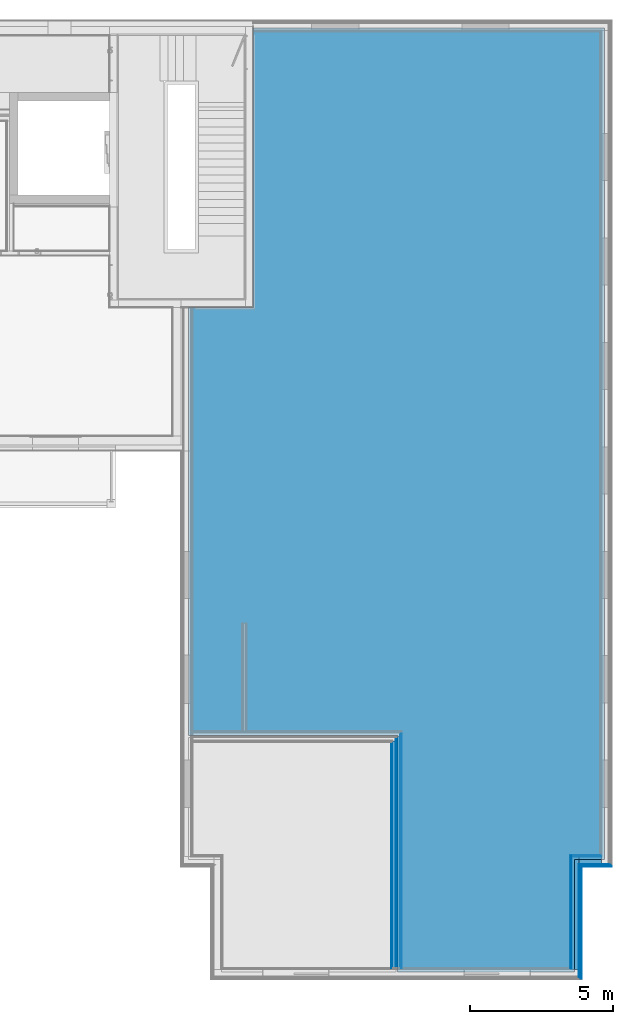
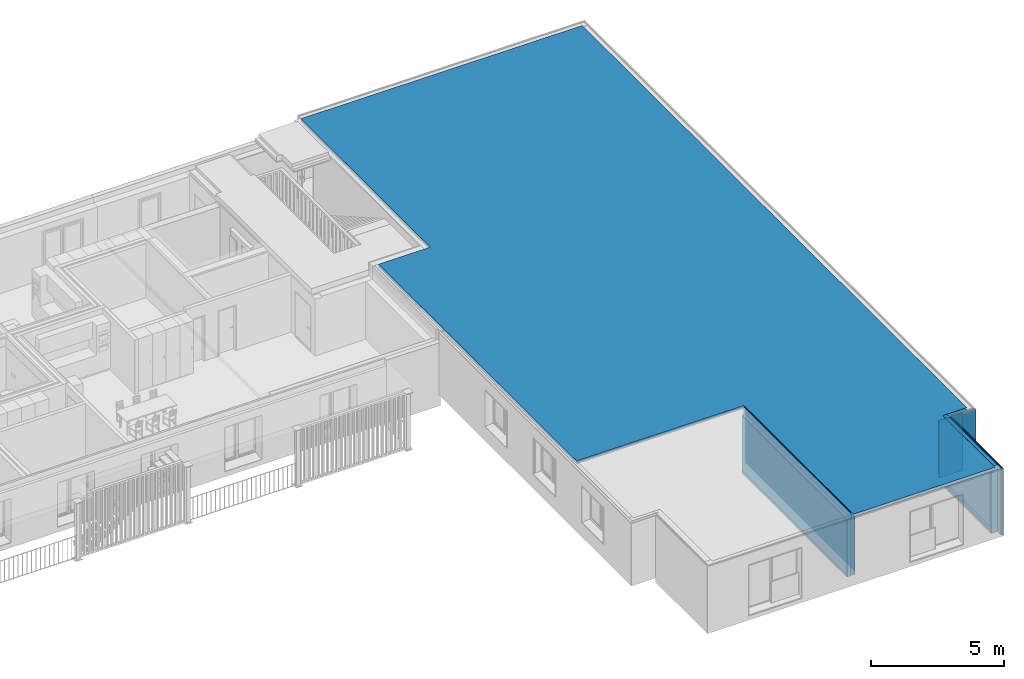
# One storey, part 17 of 34: 28 building element parts, 7 elements without a shape of their own.
"""IFC4 building model written with IfcOpenShell, lengths in millimetres."""

from ifc_helpers import new_model, entity, si_unit, converted_unit, derived_unit, direction, frame, origin_with_axes, place, context, subcontext, project, spatial, polygons, material, type_object, element, aggregate, save


model = new_model("IFC4")

# Units and contexts
model_context = context("Model", 3, precision=0.01, world=origin_with_axes(), true_north=direction((0.0, 1.0)))
body_context = subcontext(model_context, "Body", "Model", "MODEL_VIEW")
ifc_project = project(units=[si_unit("LENGTHUNIT", "METRE", prefix="MILLI"), si_unit("AREAUNIT", "SQUARE_METRE"), si_unit("VOLUMEUNIT", "CUBIC_METRE"), converted_unit("PLANEANGLEUNIT", "DEGREE", entity("IfcPlaneAngleMeasure", 0.0174532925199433), si_unit("PLANEANGLEUNIT", "RADIAN"), dimensions=[0, 0, 0, 0, 0, 0, 0]), converted_unit("TIMEUNIT", "Year", entity("IfcTimeMeasure", 31557600.0), si_unit("TIMEUNIT", "SECOND"), dimensions=[0, 0, 1, 0, 0, 0, 0]), si_unit("MASSUNIT", "GRAM", prefix="KILO"), si_unit("THERMODYNAMICTEMPERATUREUNIT", "DEGREE_CELSIUS"), si_unit("LUMINOUSINTENSITYUNIT", "LUMEN"), si_unit("ENERGYUNIT", "JOULE", prefix="MEGA"), derived_unit("THERMALCONDUCTANCEUNIT", [(si_unit("POWERUNIT", "WATT"), 1), (si_unit("LENGTHUNIT", "METRE"), -1), (si_unit("THERMODYNAMICTEMPERATUREUNIT", "KELVIN"), -1)]), derived_unit("SPECIFICHEATCAPACITYUNIT", [(si_unit("ENERGYUNIT", "JOULE"), 1), (si_unit("MASSUNIT", "GRAM", prefix="KILO"), -1), (si_unit("THERMODYNAMICTEMPERATUREUNIT", "KELVIN"), -1)]), derived_unit("MASSDENSITYUNIT", [(si_unit("MASSUNIT", "GRAM", prefix="KILO"), 1), (si_unit("VOLUMEUNIT", "CUBIC_METRE"), -1)])], contexts=[model_context])

# Site, building, storey
site_placement = place(None, origin_with_axes())
site = spatial("IfcSite", under=ifc_project, at=site_placement, Name="Gelände", CompositionType="ELEMENT")
building_placement = place(site_placement, origin_with_axes())
building = spatial("IfcBuilding", under=site, at=building_placement, Name="Gebäude", CompositionType="ELEMENT")
storey_placement = place(building_placement, frame((0.0, 0.0, 2900.0), z_axis=(0.0, 0.0, 1.0), x_axis=(1.0, 0.0, 0.0)))
storey = spatial("IfcBuildingStorey", under=building, at=storey_placement, Name="1.OG", CompositionType="ELEMENT", Elevation=2900.0)

# Wall, building element parts
wall_type_1 = type_object("IfcWallType", Name="Trennwand Typ 01 186", PredefinedType="NOTDEFINED")
wall_1_placement = place(storey_placement, frame((25242.99744456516, 4897.597281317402, 500.0), z_axis=(0.0, 0.0, 1.0), x_axis=(0.0, 1.0, 0.0)))
wall_1 = element("IfcWall", 1, at=wall_1_placement, inside=storey, type_object=wall_type_1, Name="Wand-014", PredefinedType="NOTDEFINED")
ifc_material_1 = material(Name="Kalkzementputz Aussen")
building_element_part_1_placement = place(wall_1_placement, origin_with_axes())
building_element_part_1 = element("IfcBuildingElementPart", 2, at=building_element_part_1_placement, material=ifc_material_1, Name="Kalkzementputz Aussen", PredefinedType="NOTDEFINED", context=body_context, shape_type="Tessellation", body=[
    polygons([(7891.000000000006, 0.0, 2643.999948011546), (7891.000000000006, -10.00000000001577, 2643.999948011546), (7891.000000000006, -10.00000000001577, 149.9999999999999), (7891.000000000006, 0.0, 149.9999999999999), (0.0, -10.00000000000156, 2643.999948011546), (0.0, 0.0, 2643.999948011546), (0.0, -10.00000000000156, 149.9999999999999), (0.0, 0.0, 149.9999999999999)], [[[1, 2, 3, 4]], [[5, 2, 1, 6]], [[2, 5, 7, 3]], [[4, 3, 7, 8]], [[6, 1, 4, 8]], [[5, 6, 8, 7]]], closed=True),
])
ifc_material_2 = material(Name="Gipskartonplatte GKP")
building_element_part_2_placement = place(wall_1_placement, origin_with_axes())
building_element_part_2 = element("IfcBuildingElementPart", 3, at=building_element_part_2_placement, material=ifc_material_2, Name="Gipskartonplatte GKP", PredefinedType="NOTDEFINED", context=body_context, shape_type="Tessellation", body=[
    polygons([(7901.000000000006, -10.00000000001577, 2643.999948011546), (7901.000000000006, -28.0000000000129, 2643.999948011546), (7901.000000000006, -28.0000000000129, 0.0), (7901.000000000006, -10.00000000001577, 0.0), (0.0, -27.99999999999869, 2643.999948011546), (0.0, -10.00000000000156, 2643.999948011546), (0.0, -27.99999999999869, 0.0), (0.0, -10.00000000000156, 0.0)], [[[1, 2, 3, 4]], [[5, 2, 1, 6]], [[2, 5, 7, 3]], [[4, 3, 7, 8]], [[6, 1, 4, 8]], [[5, 6, 8, 7]]], closed=True),
])
ifc_material_3 = material(Name="Gipsfaserplatte GFP")
building_element_part_3_placement = place(wall_1_placement, origin_with_axes())
building_element_part_3 = element("IfcBuildingElementPart", 4, at=building_element_part_3_placement, material=ifc_material_3, Name="Gipsfaserplatte GFP", PredefinedType="NOTDEFINED", context=body_context, shape_type="Tessellation", body=[
    polygons([(7919.000000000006, -28.0000000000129, 2643.999948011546), (7919.000000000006, -46.00000000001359, 2643.999948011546), (7919.000000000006, -46.00000000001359, 0.0), (7919.000000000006, -28.0000000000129, 0.0), (0.0, -45.99999999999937, 2643.999948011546), (0.0, -27.99999999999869, 2643.999948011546), (0.0, -45.99999999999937, 0.0), (0.0, -27.99999999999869, 0.0)], [[[1, 2, 3, 4]], [[5, 2, 1, 6]], [[2, 5, 7, 3]], [[4, 3, 7, 8]], [[6, 1, 4, 8]], [[5, 6, 8, 7]]], closed=True),
])
ifc_material_4 = material(Name="Ständer Konstruktion gedämmt")
building_element_part_4_placement = place(wall_1_placement, origin_with_axes())
building_element_part_4 = element("IfcBuildingElementPart", 5, at=building_element_part_4_placement, material=ifc_material_4, Name="Ständer Konstruktion gedämmt", PredefinedType="NOTDEFINED", context=body_context, shape_type="Tessellation", body=[
    polygons([(7937.000000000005, -46.00000000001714, 2643.999948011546), (7937.000000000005, -166.0000000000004, 2643.999948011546), (7937.000000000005, -166.0000000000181, 0.0), (7937.000000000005, -46.00000000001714, 0.0), (0.0, -165.9999999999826, 2643.999948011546), (0.0, -45.99999999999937, 2643.999948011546), (0.0, -166.0000000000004, 0.0), (0.0, -45.99999999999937, 0.0)], [[[1, 2, 3, 4]], [[5, 2, 1, 6]], [[2, 5, 7, 3]], [[4, 3, 7, 8]], [[6, 1, 4, 8]], [[5, 6, 8, 7]]], closed=True),
])
ifc_material_5 = material(Name="Dämmung Innen")
building_element_part_5_placement = place(wall_1_placement, origin_with_axes())
building_element_part_5 = element("IfcBuildingElementPart", 6, at=building_element_part_5_placement, material=ifc_material_5, Name="Dämmung Innen", PredefinedType="NOTDEFINED", context=body_context, shape_type="Tessellation", body=[
    polygons([(0.0, -185.9999999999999, 149.9999999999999), (8057.000000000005, -186.0000000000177, 149.9999999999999), (8057.000000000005, -186.0000000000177, 2899.999999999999), (0.0, -185.9999999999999, 2899.999999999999), (8057.000000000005, -166.0000000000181, 149.9999999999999), (0.0, -166.0000000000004, 149.9999999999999), (8057.000000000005, -166.0000000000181, 2899.999999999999), (0.0, -166.0000000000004, 2899.999999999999)], [[[1, 2, 3, 4]], [[5, 2, 1, 6]], [[2, 5, 7, 3]], [[3, 7, 8, 4]], [[6, 1, 4, 8]], [[5, 6, 8, 7]]], closed=True),
])
aggregate(wall_1, [building_element_part_1, building_element_part_2, building_element_part_3, building_element_part_4, building_element_part_5])

# Curtain wall, building element parts
curtain_wall_type = type_object("IfcCurtainWallType", Name="Fassade Typ 02 - Vertikale Schalung 71", PredefinedType="NOTDEFINED")
curtain_wall_1_placement = place(storey_placement, frame((32928.99744477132, 8447.597281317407, 500.0000000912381), z_axis=(0.0, 0.0, 1.0), x_axis=(-1.0, 0.0, 0.0)))
curtain_wall_1 = element("IfcCurtainWall", 7, at=curtain_wall_1_placement, inside=storey, type_object=curtain_wall_type, Name="Wand-014", PredefinedType="NOTDEFINED")
ifc_material_6 = material(Name="Falzschalung vertikal")
building_element_part_6_placement = place(curtain_wall_1_placement, origin_with_axes())
building_element_part_6 = element("IfcBuildingElementPart", 8, at=building_element_part_6_placement, material=ifc_material_6, Name="Falzschalung vertikal", PredefinedType="NOTDEFINED", context=body_context, shape_type="Tessellation", body=[
    polygons([(1067.000025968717, 0.0, 2899.99999990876), (0.0, 0.0, 2899.99999990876), (0.0, -20.99999999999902, 2899.99999990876), (1067.000025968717, -20.99999999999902, 2899.99999990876), (1067.000025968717, 0.0, 0.0), (0.0, 0.0, 0.0), (0.0, -21.0000000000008, 0.0), (1067.000025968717, -21.0000000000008, 0.0)], [[[1, 2, 3, 4]], [[5, 6, 2, 1]], [[3, 2, 6, 7]], [[4, 3, 7, 8]], [[4, 8, 5, 1]], [[8, 7, 6, 5]]], closed=True),
])
ifc_material_7 = material(Name="Lattenrost horizontal")
building_element_part_7_placement = place(curtain_wall_1_placement, origin_with_axes())
building_element_part_7 = element("IfcBuildingElementPart", 9, at=building_element_part_7_placement, material=ifc_material_7, Name="Lattenrost horizontal", PredefinedType="NOTDEFINED", context=body_context, shape_type="Tessellation", body=[
    polygons([(1092.000025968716, -20.99999999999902, 2899.99999990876), (21.0000000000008, -20.99999999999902, 2899.99999990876), (21.0000000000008, -45.99999999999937, 2899.99999990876), (1092.000025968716, -45.99999999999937, 2899.99999990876), (1092.000025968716, -21.0000000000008, 0.0), (21.0000000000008, -21.0000000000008, 0.0), (21.0000000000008, -45.99999999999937, 0.0), (1092.000025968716, -45.99999999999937, 0.0)], [[[1, 2, 3, 4]], [[5, 6, 2, 1]], [[3, 2, 6, 7]], [[4, 3, 7, 8]], [[4, 8, 5, 1]], [[8, 7, 6, 5]]], closed=True),
])
ifc_material_8 = material(Name="Lattenrost vertikal")
building_element_part_8_placement = place(curtain_wall_1_placement, origin_with_axes())
building_element_part_8 = element("IfcBuildingElementPart", 10, at=building_element_part_8_placement, material=ifc_material_8, Name="Lattenrost vertikal", PredefinedType="NOTDEFINED", context=body_context, shape_type="Tessellation", body=[
    polygons([(1117.000025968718, -45.99999999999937, 2899.99999990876), (45.99999999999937, -45.99999999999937, 2899.99999990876), (45.99999999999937, -70.99999999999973, 2899.99999990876), (1117.000025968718, -70.99999999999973, 2899.99999990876), (1117.000025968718, -45.99999999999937, 0.0), (45.99999999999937, -45.99999999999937, 0.0), (45.99999999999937, -70.99999999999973, 0.0), (1117.000025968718, -70.99999999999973, 0.0)], [[[1, 2, 3, 4]], [[5, 6, 2, 1]], [[3, 2, 6, 7]], [[4, 3, 7, 8]], [[4, 8, 5, 1]], [[8, 7, 6, 5]]], closed=True),
])
aggregate(curtain_wall_1, [building_element_part_6, building_element_part_7, building_element_part_8])

# Slab, building element parts
slab_type = type_object("IfcSlabType", Name="Geschossdecke Typ 01 256", PredefinedType="NOTDEFINED")
slab_placement = place(storey_placement, frame((32679.99744477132, 8696.597281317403, 3399.999948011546), z_axis=(0.0, 0.0, 1.0), x_axis=(1.0, 0.0, 0.0)))
slab = element("IfcSlab", 11, at=slab_placement, inside=storey, type_object=slab_type, Name="Deckennr.-073", PredefinedType="NOTDEFINED")
ifc_material_9 = material(Name="Grobspanplatte-OSB")
building_element_part_9_placement = place(slab_placement, origin_with_axes())
building_element_part_9 = element("IfcBuildingElementPart", 12, at=building_element_part_9_placement, material=ifc_material_9, Name="Grobspanplatte-OSB", PredefinedType="NOTDEFINED", context=body_context, shape_type="Tessellation", body=[
    polygons([(0.0, 29002.00000000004, -17.99999999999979), (0.0, 29002.00000000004, 0.0), (0.0, 0.0, 0.0), (0.0, 0.0, -17.99999999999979), (-12251.00000000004, 29002.00000000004, -17.99999999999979), (-12251.00000000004, 29002.00000000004, 0.0), (-12251.00000000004, 19251.00000000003, 0.0), (-14502.00000000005, 19251.00000000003, 0.0), (-14502.00000000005, 4318.000000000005, 0.0), (-7211.000000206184, 4318.000000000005, 0.0), (-7211.000000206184, -3929.000000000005, 0.0), (-1046.00002596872, -3929.000000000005, 0.0), (-1046.00002596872, 0.0, 0.0), (-1046.00002596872, 0.0, -17.99999999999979), (-1046.00002596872, -3929.000000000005, -17.99999999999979), (-7211.000000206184, -3929.000000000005, -17.99999999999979), (-7211.000000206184, 4318.000000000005, -17.99999999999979), (-14502.00000000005, 4318.000000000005, -17.99999999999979), (-14502.00000000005, 19251.00000000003, -17.99999999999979), (-12251.00000000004, 19251.00000000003, -17.99999999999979)], [[[1, 2, 3, 4]], [[5, 6, 2, 1]], [[3, 2, 6, 7, 8, 9, 10, 11, 12, 13]], [[4, 3, 13, 14]], [[4, 14, 15, 16, 17, 18, 19, 20, 5, 1]], [[20, 7, 6, 5]], [[19, 8, 7, 20]], [[18, 9, 8, 19]], [[17, 10, 9, 18]], [[16, 11, 10, 17]], [[15, 12, 11, 16]], [[14, 13, 12, 15]]], closed=True),
])
ifc_material_10 = material(Name="Balken Konstruktion ungedämmt")
building_element_part_10_placement = place(slab_placement, origin_with_axes())
building_element_part_10 = element("IfcBuildingElementPart", 13, at=building_element_part_10_placement, material=ifc_material_10, Name="Balken Konstruktion ungedämmt", PredefinedType="NOTDEFINED", context=body_context, shape_type="Tessellation", body=[
    polygons([(0.0, 29002.00000000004, -137.9999999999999), (0.0, 29002.00000000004, -17.99999999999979), (0.0, 0.0, -17.99999999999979), (0.0, 0.0, -137.9999999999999), (-12251.00000000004, 29002.00000000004, -137.9999999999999), (-12251.00000000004, 29002.00000000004, -17.99999999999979), (-12251.00000000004, 19251.00000000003, -17.99999999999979), (-14502.00000000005, 19251.00000000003, -17.99999999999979), (-14502.00000000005, 4318.000000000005, -17.99999999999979), (-7211.000000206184, 4318.000000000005, -17.99999999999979), (-7211.000000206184, -3929.000000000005, -17.99999999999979), (-1046.00002596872, -3929.000000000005, -17.99999999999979), (-1046.00002596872, 0.0, -17.99999999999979), (-1046.00002596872, 0.0, -137.9999999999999), (-1046.00002596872, -3929.000000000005, -137.9999999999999), (-7211.000000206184, -3929.000000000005, -137.9999999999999), (-7211.000000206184, 4318.000000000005, -137.9999999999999), (-14502.00000000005, 4318.000000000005, -137.9999999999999), (-14502.00000000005, 19251.00000000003, -137.9999999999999), (-12251.00000000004, 19251.00000000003, -137.9999999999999)], [[[1, 2, 3, 4]], [[5, 6, 2, 1]], [[3, 2, 6, 7, 8, 9, 10, 11, 12, 13]], [[4, 3, 13, 14]], [[4, 14, 15, 16, 17, 18, 19, 20, 5, 1]], [[20, 7, 6, 5]], [[19, 8, 7, 20]], [[18, 9, 8, 19]], [[17, 10, 9, 18]], [[16, 11, 10, 17]], [[15, 12, 11, 16]], [[14, 13, 12, 15]]], closed=True),
])
aggregate(slab, [building_element_part_9, building_element_part_10])

# Wall, building element parts
wall_2_placement = place(storey_placement, frame((25614.99744456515, 4897.597281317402, 500.0), z_axis=(0.0, 0.0, 1.0), x_axis=(0.0, 1.0, 0.0)))
wall_2 = element("IfcWall", 14, at=wall_2_placement, inside=storey, type_object=wall_type_1, Name="Wand-014", PredefinedType="NOTDEFINED")
building_element_part_11_placement = place(wall_2_placement, origin_with_axes())
building_element_part_11 = element("IfcBuildingElementPart", 15, at=building_element_part_11_placement, material=ifc_material_5, Name="Dämmung Innen", PredefinedType="NOTDEFINED", context=body_context, shape_type="Tessellation", body=[
    polygons([(0.0, 166.0000000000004, 149.9999999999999), (8077.000000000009, 165.9999999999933, 149.9999999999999), (8077.000000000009, 165.9999999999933, 2899.999999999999), (0.0, 166.0000000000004, 2899.999999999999), (8077.000000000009, 185.9999999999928, 149.9999999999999), (0.0, 185.9999999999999, 149.9999999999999), (8077.000000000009, 185.9999999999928, 2899.999999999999), (0.0, 185.9999999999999, 2899.999999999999)], [[[1, 2, 3, 4]], [[5, 2, 1, 6]], [[2, 5, 7, 3]], [[3, 7, 8, 4]], [[6, 1, 4, 8]], [[5, 6, 8, 7]]], closed=True),
])
building_element_part_12_placement = place(wall_2_placement, origin_with_axes())
building_element_part_12 = element("IfcBuildingElementPart", 16, at=building_element_part_12_placement, material=ifc_material_3, Name="Gipsfaserplatte GFP", PredefinedType="NOTDEFINED", context=body_context, shape_type="Tessellation", body=[
    polygons([(8217.00000000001, 45.99999999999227, 2643.999948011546), (8217.00000000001, 27.99999999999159, 2643.999948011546), (8217.00000000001, 27.99999999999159, 0.0), (8217.00000000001, 45.99999999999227, 0.0), (0.0, 27.99999999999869, 2643.999948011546), (0.0, 45.99999999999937, 2643.999948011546), (0.0, 27.99999999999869, 0.0), (0.0, 45.99999999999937, 0.0)], [[[1, 2, 3, 4]], [[5, 2, 1, 6]], [[2, 5, 7, 3]], [[4, 3, 7, 8]], [[6, 1, 4, 8]], [[5, 6, 8, 7]]], closed=True),
])
building_element_part_13_placement = place(wall_2_placement, origin_with_axes())
building_element_part_13 = element("IfcBuildingElementPart", 17, at=building_element_part_13_placement, material=ifc_material_4, Name="Ständer Konstruktion gedämmt", PredefinedType="NOTDEFINED", context=body_context, shape_type="Tessellation", body=[
    polygons([(8097.000000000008, 146.0000000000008, 2643.999948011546), (8097.000000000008, 45.99999999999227, 2643.999948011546), (8097.000000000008, 45.99999999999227, 0.0), (8097.000000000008, 165.9999999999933, 0.0), (8097.000000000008, 165.9999999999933, 2899.999999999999), (8097.000000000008, 146.0000000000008, 2899.999948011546), (0.0, 45.99999999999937, 2643.999948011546), (0.0, 146.0000000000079, 2643.999948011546), (0.0, 45.99999999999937, 0.0), (0.0, 166.0000000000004, 0.0), (0.0, 166.0000000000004, 2899.999999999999), (0.0, 146.0000000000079, 2899.999948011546)], [[[1, 2, 3, 4, 5, 6]], [[7, 2, 1, 8]], [[2, 7, 9, 3]], [[4, 3, 9, 10]], [[5, 4, 10, 11]], [[12, 6, 5, 11]], [[8, 1, 6, 12]], [[8, 12, 11, 10, 9, 7]]], closed=True),
])
building_element_part_14_placement = place(wall_2_placement, origin_with_axes())
building_element_part_14 = element("IfcBuildingElementPart", 18, at=building_element_part_14_placement, material=ifc_material_2, Name="Gipskartonplatte GKP", PredefinedType="NOTDEFINED", context=body_context, shape_type="Tessellation", body=[
    polygons([(8235.000000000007, 27.99999999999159, 2643.999948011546), (8235.000000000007, 9.999999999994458, 2643.999948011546), (8235.000000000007, 9.999999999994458, 0.0), (8235.000000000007, 27.99999999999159, 0.0), (0.0, 10.00000000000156, 2643.999948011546), (0.0, 27.99999999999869, 2643.999948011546), (0.0, 10.00000000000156, 0.0), (0.0, 27.99999999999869, 0.0)], [[[1, 2, 3, 4]], [[5, 2, 1, 6]], [[2, 5, 7, 3]], [[4, 3, 7, 8]], [[6, 1, 4, 8]], [[5, 6, 8, 7]]], closed=True),
])
building_element_part_15_placement = place(wall_2_placement, origin_with_axes())
building_element_part_15 = element("IfcBuildingElementPart", 19, at=building_element_part_15_placement, material=ifc_material_1, Name="Kalkzementputz Aussen", PredefinedType="NOTDEFINED", context=body_context, shape_type="Tessellation", body=[
    polygons([(0.0, 0.0, 149.9999999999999), (8253.000000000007, 0.0, 149.9999999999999), (8253.000000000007, 0.0, 2643.999948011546), (0.0, 0.0, 2643.999948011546), (8253.000000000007, 9.999999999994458, 149.9999999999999), (0.0, 9.99999999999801, 149.9999999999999), (8253.000000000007, 9.999999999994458, 2643.999948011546), (0.0, 10.00000000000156, 2643.999948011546)], [[[1, 2, 3, 4]], [[5, 2, 1, 6]], [[2, 5, 7, 3]], [[4, 3, 7, 8]], [[6, 1, 4, 8]], [[5, 6, 8, 7]]], closed=True),
])
aggregate(wall_2, [building_element_part_11, building_element_part_12, building_element_part_13, building_element_part_14, building_element_part_15])

wall_type_2 = type_object("IfcWallType", Name="Aussenwand Typ 01 318", PredefinedType="NOTDEFINED")
wall_3_placement = place(storey_placement, frame((31811.9974188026, 4589.597281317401, 319.999999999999), z_axis=(0.0, 0.0, 1.0), x_axis=(0.0, 1.0, 0.0)))
wall_3 = element("IfcWall", 20, at=wall_3_placement, inside=storey, type_object=wall_type_2, Name="Wand-014", PredefinedType="NOTDEFINED")
ifc_material_11 = material(Name="Verputz Innen")
building_element_part_16_placement = place(wall_3_placement, origin_with_axes())
building_element_part_16 = element("IfcBuildingElementPart", 21, at=building_element_part_16_placement, material=ifc_material_11, Name="Verputz Innen", PredefinedType="NOTDEFINED", context=body_context, shape_type="Tessellation", body=[
    polygons([(3929.000000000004, 318.0000000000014, 180.0000000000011), (3929.000000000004, 307.9999999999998, 180.0000000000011), (3929.000000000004, 307.9999999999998, 0.0), (3929.000000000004, 318.0000000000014, 0.0), (3858.000000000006, 307.9999999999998, 180.0000000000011), (3858.000000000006, 318.0000000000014, 180.0000000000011), (3858.000000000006, 307.9999999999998, 0.0), (3858.000000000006, 318.0000000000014, 0.0)], [[[1, 2, 3, 4]], [[5, 2, 1, 6]], [[2, 5, 7, 3]], [[7, 8, 4, 3]], [[6, 1, 4, 8]], [[5, 6, 8, 7]]], closed=True),
    polygons([(317.9999999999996, 307.9999999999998, 330.000000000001), (4237.000000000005, 307.9999999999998, 330.000000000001), (4247.000000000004, 307.9999999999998, 330.000000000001), (4247.000000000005, 307.9999999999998, 2823.999948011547), (317.9999999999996, 307.9999999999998, 2823.999948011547), (4247.000000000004, 318.0000000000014, 330.000000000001), (317.9999999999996, 318.0000000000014, 330.000000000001), (4247.000000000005, 318.0000000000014, 2823.999948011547), (317.9999999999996, 318.0000000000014, 2823.999948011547)], [[[1, 2, 3, 4, 5]], [[6, 3, 2, 1, 7]], [[3, 6, 8, 4]], [[5, 4, 8, 9]], [[7, 1, 5, 9]], [[6, 7, 9, 8]]], closed=True),
])
building_element_part_17_placement = place(wall_3_placement, origin_with_axes())
building_element_part_17 = element("IfcBuildingElementPart", 22, at=building_element_part_17_placement, material=ifc_material_3, Name="Gipsfaserplatte GFP", PredefinedType="NOTDEFINED", context=body_context, shape_type="Tessellation", body=[
    polygons([(4237.000000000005, 307.9999999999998, 2823.999948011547), (4237.000000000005, 292.9999999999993, 2823.999948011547), (4237.000000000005, 292.9999999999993, 180.0000000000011), (4237.000000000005, 307.9999999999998, 180.0000000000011), (308.0000000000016, 292.9999999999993, 2823.999948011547), (308.0000000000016, 307.9999999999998, 2823.999948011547), (308.0000000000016, 292.9999999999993, 180.0000000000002), (3858.000000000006, 292.9999999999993, 180.0000000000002), (3858.000000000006, 292.9999999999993, 0.0), (3929.000000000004, 292.9999999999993, 0.0), (3929.000000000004, 292.9999999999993, 180.0000000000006), (3929.000000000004, 307.9999999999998, 180.0000000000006), (3929.000000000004, 307.9999999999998, 0.0), (3858.000000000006, 307.9999999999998, 0.0), (3858.000000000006, 307.9999999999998, 180.0000000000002), (308.0000000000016, 307.9999999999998, 180.0000000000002)], [[[1, 2, 3, 4]], [[5, 2, 1, 6]], [[2, 5, 7, 8, 9, 10, 11, 3]], [[12, 4, 3, 11]], [[6, 1, 4, 12, 13, 14, 15, 16]], [[5, 6, 16, 7]], [[8, 7, 16, 15]], [[9, 8, 15, 14]], [[9, 14, 13, 10]], [[12, 11, 10, 13]]], closed=True),
])
building_element_part_18_placement = place(wall_3_placement, origin_with_axes())
building_element_part_18 = element("IfcBuildingElementPart", 23, at=building_element_part_18_placement, material=ifc_material_3, Name="Gipsfaserplatte GFP", PredefinedType="NOTDEFINED", context=body_context, shape_type="Tessellation", body=[
    polygons([(4222.000000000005, 292.9999999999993, 2823.999948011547), (4222.000000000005, 277.9999999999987, 2823.999948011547), (4222.000000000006, 277.9999999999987, 180.0000000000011), (4222.000000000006, 292.9999999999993, 180.0000000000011), (293.000000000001, 277.9999999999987, 2823.999948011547), (293.000000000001, 292.9999999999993, 2823.999948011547), (293.000000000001, 277.9999999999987, 0.0), (3929.000000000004, 277.9999999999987, 0.0), (3929.000000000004, 277.9999999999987, 180.0000000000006), (3929.000000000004, 292.9999999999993, 180.0000000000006), (3929.000000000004, 292.9999999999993, 0.0), (293.000000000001, 292.9999999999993, 0.0)], [[[1, 2, 3, 4]], [[5, 2, 1, 6]], [[2, 5, 7, 8, 9, 3]], [[10, 4, 3, 9]], [[6, 1, 4, 10, 11, 12]], [[5, 6, 12, 7]], [[12, 11, 8, 7]], [[10, 9, 8, 11]]], closed=True),
])
building_element_part_19_placement = place(wall_3_placement, origin_with_axes())
building_element_part_19 = element("IfcBuildingElementPart", 24, at=building_element_part_19_placement, material=ifc_material_9, Name="Grobspanplatte-OSB", PredefinedType="NOTDEFINED", context=body_context, shape_type="Tessellation", body=[
    polygons([(3929.000000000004, 0.0, 0.0), (3929.000000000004, 0.0, 180.0000000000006), (3947.000000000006, 0.0, 180.0000000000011), (3947.000000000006, 0.0, 3080.0), (17.99999999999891, 0.0, 3080.0), (17.99999999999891, 0.0, 0.0), (3929.000000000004, 18.00000000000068, 0.0), (3929.000000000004, 18.00000000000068, 180.0000000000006), (3947.000000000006, 18.00000000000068, 180.0000000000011), (3947.000000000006, 18.00000000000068, 3080.0), (17.99999999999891, 18.00000000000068, 3080.0), (17.99999999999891, 18.00000000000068, 0.0)], [[[1, 2, 3, 4, 5, 6]], [[7, 8, 2, 1]], [[2, 8, 9, 3]], [[3, 9, 10, 4]], [[11, 5, 4, 10]], [[5, 11, 12, 6]], [[6, 12, 7, 1]], [[12, 11, 10, 9, 8, 7]]], closed=True),
])
building_element_part_20_placement = place(wall_3_placement, origin_with_axes())
building_element_part_20 = element("IfcBuildingElementPart", 25, at=building_element_part_20_placement, material=ifc_material_4, Name="Ständer Konstruktion gedämmt", PredefinedType="NOTDEFINED", context=body_context, shape_type="Tessellation", body=[
    polygons([(4207.000000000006, 277.9999999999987, 180.0000000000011), (4207.000000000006, 277.9999999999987, 2823.999948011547), (4207.000000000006, 18.00000000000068, 2823.999948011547), (4207.000000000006, 18.00000000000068, 180.0000000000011), (278.0000000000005, 277.9999999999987, 0.0), (278.0000000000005, 277.9999999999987, 2823.999948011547), (3929.000000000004, 277.9999999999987, 180.0000000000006), (3929.000000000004, 277.9999999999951, 0.0), (4107.000000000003, 177.9999999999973, 2823.999948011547), (4107.000000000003, 18.00000000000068, 2823.999948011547), (278.0000000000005, 177.9999999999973, 2823.999948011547), (4107.000000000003, 18.00000000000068, 3079.999948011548), (278.0000000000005, 18.00000000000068, 3080.0), (278.0000000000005, 18.00000000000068, 0.0), (3929.000000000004, 18.00000000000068, 0.0), (3929.000000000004, 18.00000000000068, 180.0000000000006), (278.0000000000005, 177.9999999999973, 3079.999948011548), (4107.000000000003, 177.9999999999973, 3079.999948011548)], [[[1, 2, 3, 4]], [[5, 6, 2, 1, 7, 8]], [[9, 10, 3, 2, 6, 11]], [[3, 10, 12, 13, 14, 15, 16, 4]], [[16, 7, 1, 4]], [[17, 11, 6, 5, 14, 13]], [[8, 7, 16, 15]], [[14, 5, 8, 15]], [[12, 10, 9, 18]], [[18, 9, 11, 17]], [[12, 18, 17, 13]]], closed=True),
])
aggregate(wall_3, [building_element_part_16, building_element_part_17, building_element_part_18, building_element_part_19, building_element_part_20])

# Curtain wall, building element parts
curtain_wall_2_placement = place(storey_placement, frame((31882.9974188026, 8447.597281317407, 319.999999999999), z_axis=(0.0, 0.0, 1.0), x_axis=(0.0, -1.0, 0.0)))
curtain_wall_2 = element("IfcCurtainWall", 26, at=curtain_wall_2_placement, inside=storey, type_object=curtain_wall_type, Name="Wand-014", PredefinedType="NOTDEFINED")
building_element_part_21_placement = place(curtain_wall_2_placement, origin_with_axes())
building_element_part_21 = element("IfcBuildingElementPart", 27, at=building_element_part_21_placement, material=ifc_material_6, Name="Falzschalung vertikal", PredefinedType="NOTDEFINED", context=body_context, shape_type="Tessellation", body=[
    polygons([(6.844015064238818, 0.0, 3079.999999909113), (6.404703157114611, -0.9456065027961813, 3079.999999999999), (6.404703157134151, 0.0, 3079.999999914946), (0.0, 0.0, 3079.999999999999), (0.0, -21.0000000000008, 3079.999999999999), (3908.000000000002, -21.0000000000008, 3079.999948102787), (3908.000000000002, 0.0, 3079.999948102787), (6.844015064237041, 0.0, 3052.044753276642), (6.404703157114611, -0.9456065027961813, 3052.044753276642), (6.404703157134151, 0.0, 3052.044753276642), (3908.000000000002, 0.0, 0.0), (0.0, 0.0, 0.0), (0.0, -21.0000000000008, 0.0), (3908.000000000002, -21.0000000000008, 0.0)], [[[1, 2, 3, 4, 5, 6, 7]], [[2, 1, 8, 9]], [[10, 3, 2, 9]], [[8, 1, 7, 11, 12, 4, 3, 10]], [[13, 5, 4, 12]], [[6, 5, 13, 14]], [[6, 14, 11, 7]], [[8, 10, 9]], [[14, 13, 12, 11]]], closed=True),
])
building_element_part_22_placement = place(curtain_wall_2_placement, origin_with_axes())
building_element_part_22 = element("IfcBuildingElementPart", 28, at=building_element_part_22_placement, material=ifc_material_7, Name="Lattenrost horizontal", PredefinedType="NOTDEFINED", context=body_context, shape_type="Tessellation", body=[
    polygons([(0.0, -21.0000000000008, 180.0000000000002), (-21.0000000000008, -21.0000000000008, 180.0000000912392), (-20.99999999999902, -21.0000000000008, 3079.999999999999), (3883.000000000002, -21.0000000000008, 3079.999948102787), (3883.000000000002, -21.0000000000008, 0.0), (0.0, -21.0000000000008, 0.0), (0.0, -45.99999999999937, 180.0000000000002), (-21.0000000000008, -45.99999999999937, 180.0000000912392), (-20.99999999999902, -45.99999999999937, 3079.999999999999), (3883.000000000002, -45.99999999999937, 3079.999948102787), (3883.000000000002, -45.99999999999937, 0.0), (0.0, -45.99999999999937, 0.0)], [[[1, 2, 3, 4, 5, 6]], [[7, 8, 2, 1]], [[8, 9, 3, 2]], [[4, 3, 9, 10]], [[10, 11, 5, 4]], [[11, 12, 6, 5]], [[7, 1, 6, 12]], [[10, 9, 8, 7, 12, 11]]], closed=True),
])
building_element_part_23_placement = place(curtain_wall_2_placement, origin_with_axes())
building_element_part_23 = element("IfcBuildingElementPart", 29, at=building_element_part_23_placement, material=ifc_material_8, Name="Lattenrost vertikal", PredefinedType="NOTDEFINED", context=body_context, shape_type="Tessellation", body=[
    polygons([(0.0, -45.99999999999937, 180.0000000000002), (-45.99999999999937, -45.99999999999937, 180.0000000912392), (-45.99999999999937, -45.99999999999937, 3079.999999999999), (3858.000000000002, -45.99999999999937, 3079.999948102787), (3858.000000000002, -45.99999999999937, 0.0), (0.0, -45.99999999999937, 0.0), (0.0, -71.0000000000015, 180.0000000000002), (-45.99999999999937, -71.0000000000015, 180.0000000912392), (-45.99999999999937, -71.0000000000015, 3079.999999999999), (3858.000000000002, -71.0000000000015, 3079.999948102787), (3858.000000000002, -71.0000000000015, 0.0), (0.0, -71.0000000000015, 0.0)], [[[1, 2, 3, 4, 5, 6]], [[7, 8, 2, 1]], [[8, 9, 3, 2]], [[4, 3, 9, 10]], [[10, 11, 5, 4]], [[11, 12, 6, 5]], [[7, 1, 6, 12]], [[10, 9, 8, 7, 12, 11]]], closed=True),
])
aggregate(curtain_wall_2, [building_element_part_21, building_element_part_22, building_element_part_23])

# Wall, building element parts
wall_4_placement = place(storey_placement, frame((32857.99744477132, 8518.597281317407, 500.0), z_axis=(0.0, 0.0, 1.0), x_axis=(-1.0, 0.0, 0.0)))
wall_4 = element("IfcWall", 30, at=wall_4_placement, inside=storey, type_object=wall_type_2, Name="Wand-014", PredefinedType="NOTDEFINED")
building_element_part_24_placement = place(wall_4_placement, origin_with_axes())
building_element_part_24 = element("IfcBuildingElementPart", 31, at=building_element_part_24_placement, material=ifc_material_4, Name="Ständer Konstruktion gedämmt", PredefinedType="NOTDEFINED", context=body_context, shape_type="Tessellation", body=[
    polygons([(1064.000025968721, -278.0000000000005, 2643.999948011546), (277.9999999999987, -278.0000000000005, 2643.999948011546), (277.9999999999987, -278.0000000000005, 0.0), (1064.000025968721, -278.0000000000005, 0.0), (277.9999999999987, -177.9999999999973, 2643.999948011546), (1064.000025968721, -177.9999999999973, 2643.999948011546), (277.9999999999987, -177.9999999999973, 2899.999948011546), (277.9999999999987, -18.00000000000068, 2899.999999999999), (277.9999999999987, -18.00000000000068, 0.0), (1064.000025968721, -18.00000000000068, 0.0), (1064.000025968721, -18.00000000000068, 2899.999999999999), (1064.000025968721, -177.9999999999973, 2899.999948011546)], [[[1, 2, 3, 4]], [[5, 2, 1, 6]], [[5, 7, 8, 9, 3, 2]], [[10, 4, 3, 9]], [[6, 1, 4, 10, 11, 12]], [[5, 6, 12, 7]], [[7, 12, 11, 8]], [[11, 10, 9, 8]]], closed=True),
])
building_element_part_25_placement = place(wall_4_placement, origin_with_axes())
building_element_part_25 = element("IfcBuildingElementPart", 32, at=building_element_part_25_placement, material=ifc_material_9, Name="Grobspanplatte-OSB", PredefinedType="NOTDEFINED", context=body_context, shape_type="Tessellation", body=[
    polygons([(1046.00002596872, -18.00000000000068, 2899.999999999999), (1046.00002596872, 0.0, 2899.999999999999), (18.00000000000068, 0.0, 2899.999999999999), (18.00000000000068, -18.00000000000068, 2899.999999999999), (1046.00002596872, -18.00000000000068, 0.0), (1046.00002596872, 0.0, 0.0), (18.00000000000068, 0.0, 0.0), (18.00000000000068, -18.00000000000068, 0.0)], [[[1, 2, 3, 4]], [[2, 1, 5, 6]], [[2, 6, 7, 3]], [[8, 4, 3, 7]], [[5, 1, 4, 8]], [[6, 5, 8, 7]]], closed=True),
])
building_element_part_26_placement = place(wall_4_placement, origin_with_axes())
building_element_part_26 = element("IfcBuildingElementPart", 33, at=building_element_part_26_placement, material=ifc_material_3, Name="Gipsfaserplatte GFP", PredefinedType="NOTDEFINED", context=body_context, shape_type="Tessellation", body=[
    polygons([(1324.000025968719, -292.9999999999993, 2643.999948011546), (292.9999999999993, -292.9999999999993, 2643.999948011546), (292.9999999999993, -292.9999999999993, 0.0), (1324.000025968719, -293.000000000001, 0.0), (292.9999999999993, -278.0000000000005, 2643.999948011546), (1324.000025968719, -278.0000000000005, 2643.999948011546), (292.9999999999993, -278.0000000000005, 0.0), (1324.000025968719, -278.0000000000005, 0.0)], [[[1, 2, 3, 4]], [[5, 2, 1, 6]], [[2, 5, 7, 3]], [[8, 4, 3, 7]], [[6, 1, 4, 8]], [[5, 6, 8, 7]]], closed=True),
])
building_element_part_27_placement = place(wall_4_placement, origin_with_axes())
building_element_part_27 = element("IfcBuildingElementPart", 34, at=building_element_part_27_placement, material=ifc_material_3, Name="Gipsfaserplatte GFP", PredefinedType="NOTDEFINED", context=body_context, shape_type="Tessellation", body=[
    polygons([(1339.000025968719, -307.9999999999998, 2643.999948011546), (307.9999999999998, -307.9999999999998, 2643.999948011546), (307.9999999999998, -307.9999999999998, 0.0), (1339.000025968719, -307.9999999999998, 0.0), (307.9999999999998, -292.9999999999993, 2643.999948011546), (1339.000025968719, -292.9999999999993, 2643.999948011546), (307.9999999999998, -292.9999999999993, 0.0), (1339.000025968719, -293.000000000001, 0.0)], [[[1, 2, 3, 4]], [[5, 2, 1, 6]], [[2, 5, 7, 3]], [[8, 4, 3, 7]], [[6, 1, 4, 8]], [[5, 6, 8, 7]]], closed=True),
])
building_element_part_28_placement = place(wall_4_placement, origin_with_axes())
building_element_part_28 = element("IfcBuildingElementPart", 35, at=building_element_part_28_placement, material=ifc_material_11, Name="Verputz Innen", PredefinedType="NOTDEFINED", context=body_context, shape_type="Tessellation", body=[
    polygons([(317.9999999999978, -307.9999999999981, 149.9999999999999), (317.9999999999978, -317.9999999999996, 149.9999999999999), (317.9999999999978, -317.9999999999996, 2643.999948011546), (317.9999999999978, -307.9999999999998, 2643.999948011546), (1354.00002596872, -317.9999999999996, 149.9999999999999), (1354.00002596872, -307.9999999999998, 149.9999999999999), (1354.00002596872, -317.9999999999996, 2643.999948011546), (1354.00002596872, -307.9999999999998, 2643.999948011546)], [[[1, 2, 3, 4]], [[5, 2, 1, 6]], [[2, 5, 7, 3]], [[4, 3, 7, 8]], [[6, 1, 4, 8]], [[5, 6, 8, 7]]], closed=True),
])
aggregate(wall_4, [building_element_part_24, building_element_part_25, building_element_part_26, building_element_part_27, building_element_part_28])

save(model, "model.ifc")
